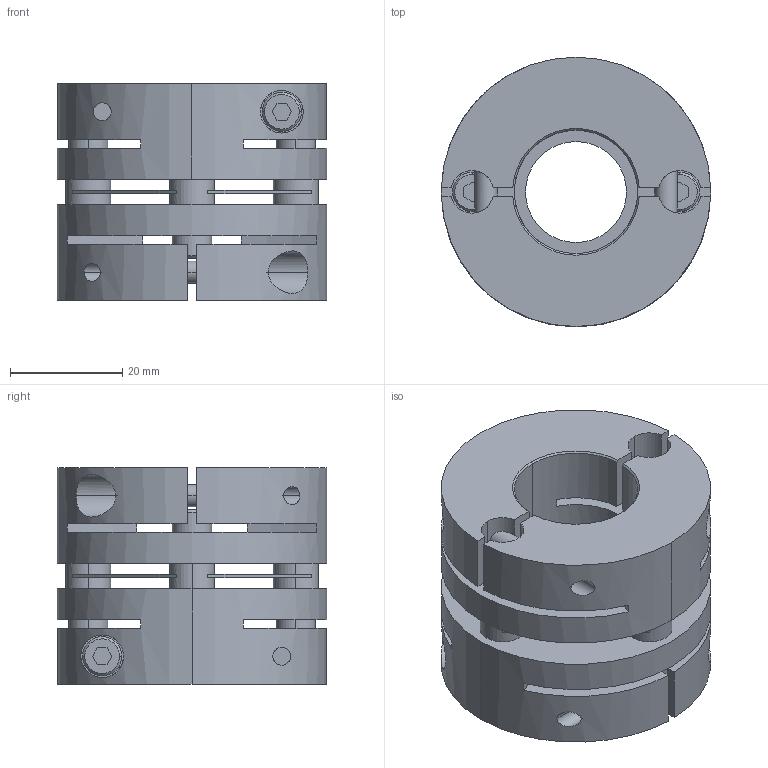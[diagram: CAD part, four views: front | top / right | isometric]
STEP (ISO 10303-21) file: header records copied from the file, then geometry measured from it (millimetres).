
FILE_DESCRIPTION((''),'2;1');
FILE_NAME('LAS-48C-20×22.stp','2015-10-14T15:50:53',(''),(''),'AutoCAD STEP 2000i','AutoCAD 2000i',', , ');
FILE_SCHEMA(('CONFIG_CONTROL_DESIGN'));
Length unit declared in the file: millimetre
Products named in the file (7): LAS-48C-19×19; 忣兜1; LA-4802-D19-1; LA-4802-D19; LA-4802-D12-1; LA-4802-D12; LAS48-ITA
Assembly tree (6 placements, depth 2):
  LAS-48C-19×19
    忣兜1
    LA-4802-D19-1
    LA-4802-D19
    LA-4802-D12-1
    LA-4802-D12
    LAS48-ITA
Bounding box: 48 x 48 x 38.6 mm (x, y, z)
Volume: 45010.6 mm3; surface area: 21487 mm2
Topology: 1 solids, 1 shells, 224 faces, 612 edges, 400 vertices
Faces by surface type: plane 112, cylinder 84, cone 28
Entity records: 8075 total; most frequent: CARTESIAN_POINT 2043, DIRECTION 1262, ORIENTED_EDGE 1224, EDGE_CURVE 612, AXIS2_PLACEMENT_3D 459, VERTEX_POINT 400, VECTOR 344, LINE 344
